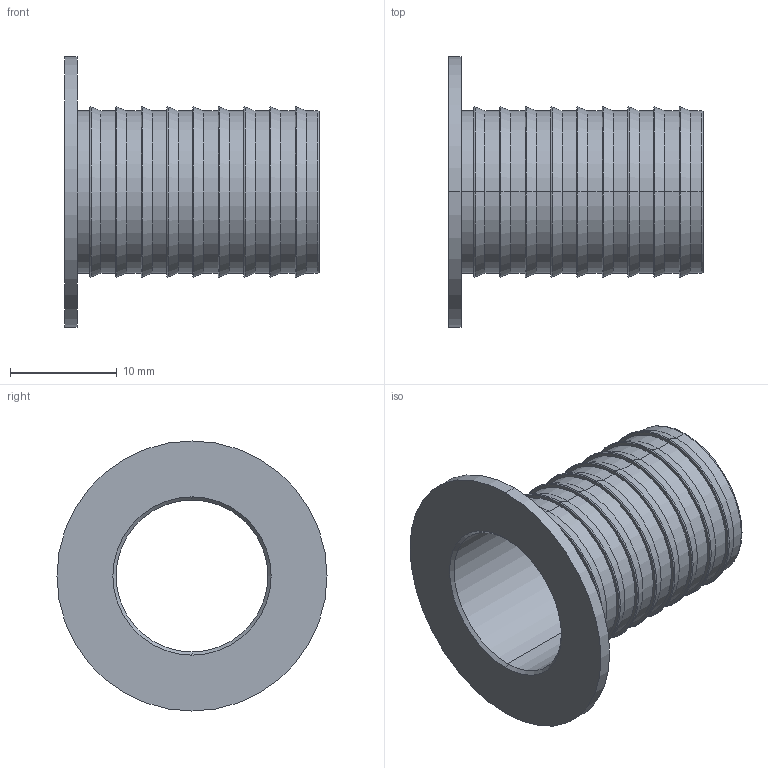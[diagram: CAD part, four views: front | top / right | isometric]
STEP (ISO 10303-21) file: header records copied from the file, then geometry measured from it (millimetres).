
FILE_DESCRIPTION (( 'STEP AP203' ), '1' );
FILE_NAME ('DTI16-12 SS.STEP', '2009-09-08T09:58:27', ( ' ' ), ( '' ), 'SwSTEP 2.0', 'SolidWorks 2008', '' );
FILE_SCHEMA (( 'CONFIG_CONTROL_DESIGN' ));
Length unit declared in the file: millimetre
Products named in the file (1): DTI16-12 SS
Bounding box: 23.8 x 25.25 x 25.25 mm (x, y, z)
Volume: 986.1 mm3; surface area: 3084.3 mm2
Topology: 1 solids, 1 shells, 78 faces, 156 edges, 90 vertices
Faces by surface type: cylinder 24, cone 22, torus 20, plane 12
Entity records: 2115 total; most frequent: DIRECTION 424, CARTESIAN_POINT 325, ORIENTED_EDGE 312, AXIS2_PLACEMENT_3D 189, EDGE_CURVE 156, CIRCLE 110, EDGE_LOOP 90, VERTEX_POINT 90
